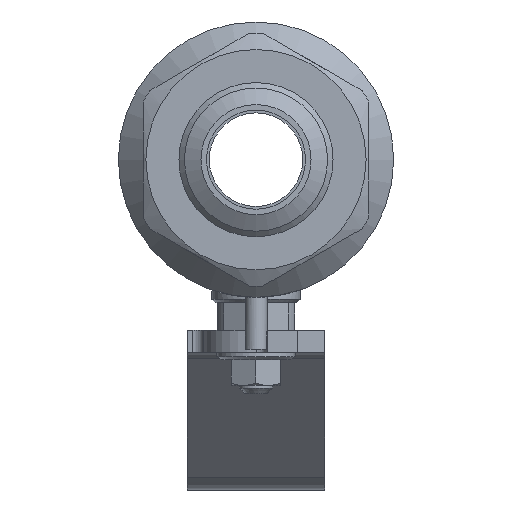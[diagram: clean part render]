
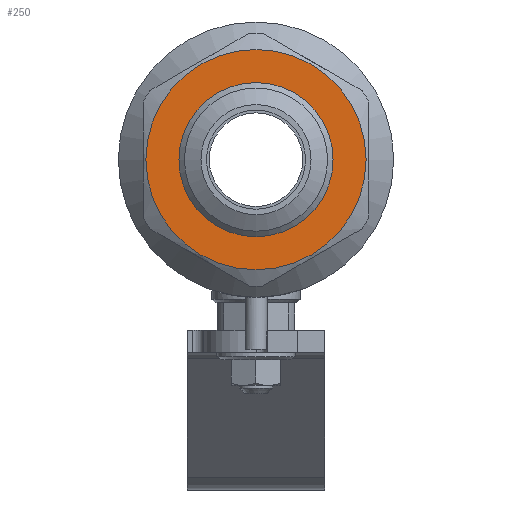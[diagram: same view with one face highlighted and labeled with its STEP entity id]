
A CAD part, left-side view. The second image highlights one B-rep face of the part: STEP entity #250.
In plain terms, the highlighted planar face has unit normal (-1, 0, 0).
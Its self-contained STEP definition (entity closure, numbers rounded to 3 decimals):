
#250=ADVANCED_FACE('',(#2228,#2230),#2232,.T.);
#2228=FACE_BOUND('',#2229,.T.);
#2229=EDGE_LOOP('',(#3384));
#2230=FACE_OUTER_BOUND('',#2231,.T.);
#2231=EDGE_LOOP('',(#3385));
#2232=PLANE('',#2233);
#2233=AXIS2_PLACEMENT_3D('',#2234,#2235,#2236);
#2234=CARTESIAN_POINT('',(-68.,0.,0.));
#2235=DIRECTION('',(-1.,0.,0.));
#2236=DIRECTION('',(0.,0.,1.));
#3384=ORIENTED_EDGE('',*,*,#4582,.T.);
#3385=ORIENTED_EDGE('',*,*,#4592,.F.);
#4582=EDGE_CURVE('',#5236,#5236,#5237,.F.);
#4592=EDGE_CURVE('',#5254,#5254,#5255,.T.);
#5236=VERTEX_POINT('',#8467);
#5237=CIRCLE('',#8468,14.);
#5254=VERTEX_POINT('',#8507);
#5255=CIRCLE('',#8508,20.);
#8467=CARTESIAN_POINT('',(-68.,-14.,0.));
#8468=AXIS2_PLACEMENT_3D('',#8469,#8470,#8471);
#8469=CARTESIAN_POINT('',(-68.,0.,0.));
#8470=DIRECTION('',(-1.,0.,0.));
#8471=DIRECTION('',(0.,-1.,0.));
#8507=CARTESIAN_POINT('',(-68.,0.,20.));
#8508=AXIS2_PLACEMENT_3D('',#8509,#8510,#8511);
#8509=CARTESIAN_POINT('',(-68.,0.,0.));
#8510=DIRECTION('',(1.,0.,0.));
#8511=DIRECTION('',(0.,0.,1.));
